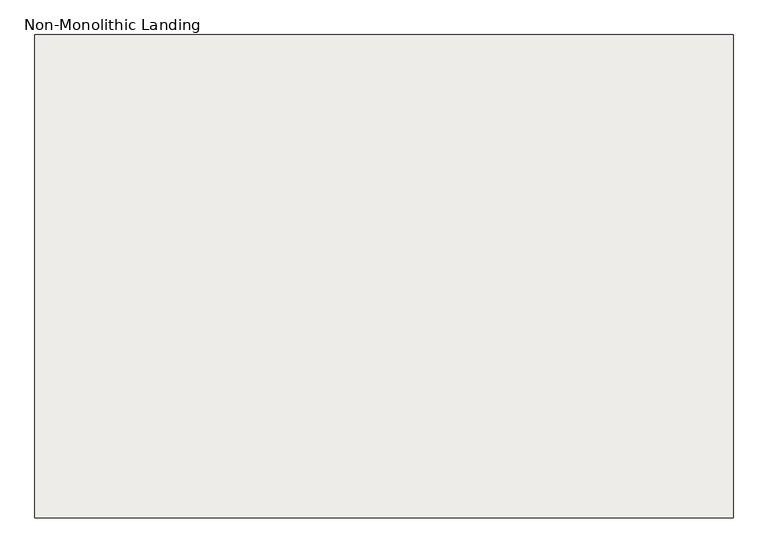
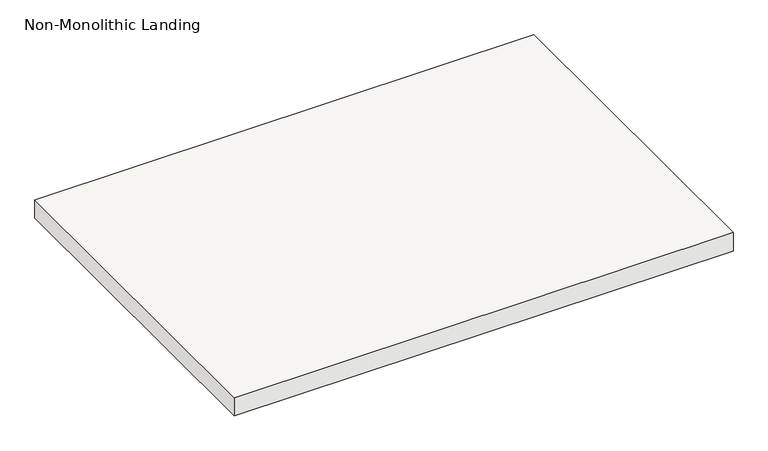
"""IFC4 building model written with IfcOpenShell, lengths in millimetres: slab geometry, Non-Monolithic Landing."""

from ifc_helpers import new_model, si_unit, frame, origin, place, context, project, spatial, polyline, outline, extrude, source, transform, mapped, element, save


def non_monolithic_landing_d1df9633(model_context):
    return source(origin(), model_context, "Body", "SweptSolid", [
        extrude(outline(polyline([(162982.2620703, 16760.4395941), (164303.0620703, 16760.4395941), (164303.0620703, 15846.0395941), (162982.2620703, 15846.0395941), (162982.2620703, 16760.4395941)])), frame((0.0, 0.0, 2126.3428571), z_axis=(0.0, 0.0, 1.0), x_axis=(1.0, 0.0, 0.0)), (0.0, 0.0, 1.0), 50.8),
    ])


if __name__ == "__main__":
    model = new_model("IFC4")
    model_context = context("Model", 3, world=origin())
    ifc_project = project(units=[si_unit("LENGTHUNIT", "METRE", prefix="MILLI")], contexts=[model_context])
    site = spatial("IfcSite", under=ifc_project)
    building = spatial("IfcBuilding", under=site)
    placement = place(None, origin())
    non_monolithic_landing_shape = non_monolithic_landing_d1df9633(model_context)
    element("IfcSlab", 1, ObjectType="Non-Monolithic Landing", at=placement, inside=building, context=model_context, shape_type="MappedRepresentation", body=[
        mapped(non_monolithic_landing_shape, transform((0.0, 0.0, 0.0), x_axis=(1.0, 0.0, 0.0), y_axis=(0.0, 1.0, 0.0), z_axis=(0.0, 0.0, 1.0))),
    ])
    save(model, "model.ifc")
